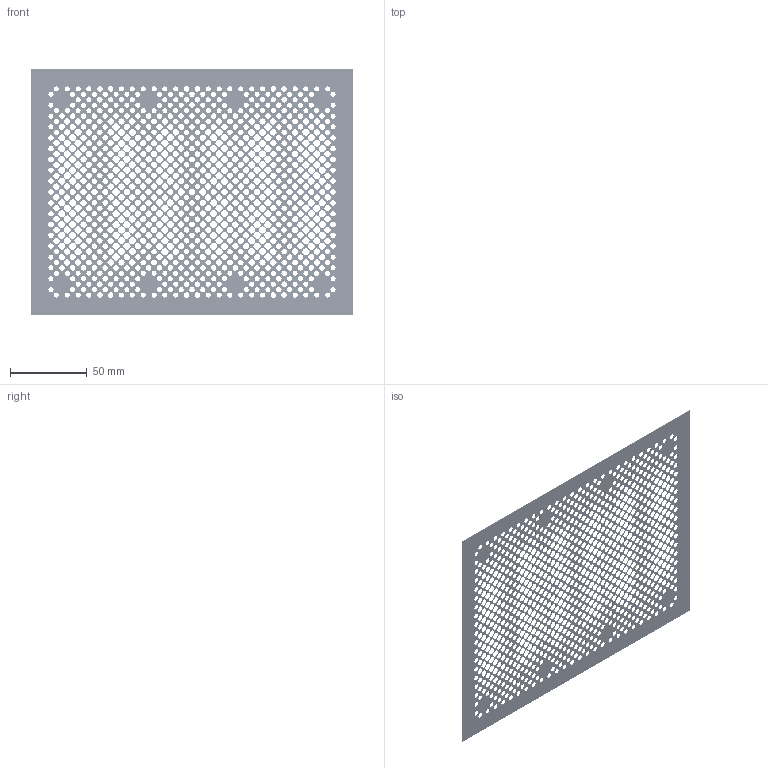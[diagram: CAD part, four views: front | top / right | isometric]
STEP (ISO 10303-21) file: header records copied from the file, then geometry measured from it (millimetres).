
FILE_DESCRIPTION (( 'STEP AP214' ), '1' );
FILE_NAME ('StencilMask(MBN1500E33E2).STEP', '2017-08-23T04:47:03', ( 'Flora110' ), ( '' ), 'SwSTEP 2.0', 'SolidWorks 2010', '' );
FILE_SCHEMA (( 'AUTOMOTIVE_DESIGN' ));
Products named in the file (1): StencilMask(MBN1500E33E2)
Bounding box: 210 x 0.15 x 160 mm (x, y, z)
Volume: 3259.8 mm3; surface area: 45412.3 mm2
Topology: 1 solids, 1 shells, 6642 faces, 19920 edges, 13280 vertices
Faces by surface type: cylinder 3416, plane 3226
Full cylindrical faces by diameter (mm): 3.3 x196
Entity records: 229034 total; most frequent: DIRECTION 39842, CARTESIAN_POINT 39647, ORIENTED_EDGE 39448, EDGE_CURVE 19724, AXIS2_PLACEMENT_3D 13475, VERTEX_POINT 13280, VECTOR 12892, LINE 12892
